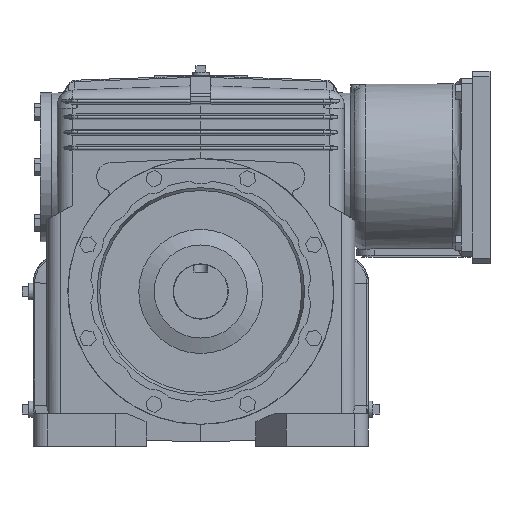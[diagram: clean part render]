
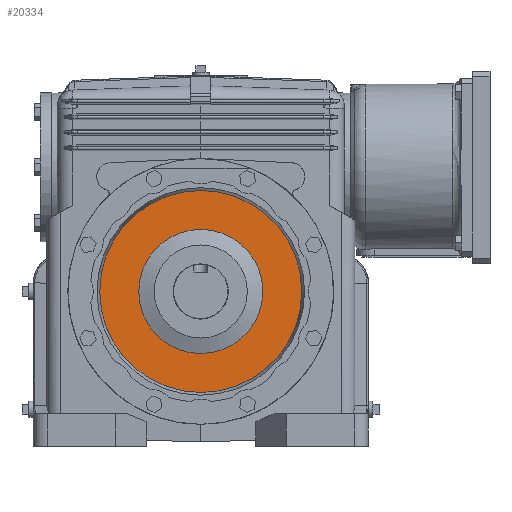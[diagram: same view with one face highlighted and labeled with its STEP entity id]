
A CAD part, front view. The second image highlights one B-rep face of the part: STEP entity #20334.
In plain terms, the highlighted planar face has unit normal (0, -1, 0) as drawn and (1, 0, 0) by its records, which use the part's own axes.
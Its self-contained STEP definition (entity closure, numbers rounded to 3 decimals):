
#9340=ORIENTED_EDGE('',*,*,#13008,.F.);
#9341=ORIENTED_EDGE('',*,*,#13007,.T.);
#13007=EDGE_CURVE('',#15077,#15077,#15818,.T.);
#13008=EDGE_CURVE('',#15078,#15078,#15819,.T.);
#15077=VERTEX_POINT('',#55734);
#15078=VERTEX_POINT('',#55737);
#15818=CIRCLE('',#23524,101.6);
#15819=CIRCLE('',#23526,165.351);
#16926=EDGE_LOOP('',(#9340));
#16927=EDGE_LOOP('',(#9341));
#18330=FACE_BOUND('',#16926,.T.);
#18331=FACE_BOUND('',#16927,.T.);
#19167=PLANE('',#23525);
#20334=ADVANCED_FACE('',(#18330,#18331),#19167,.F.);
#23524=AXIS2_PLACEMENT_3D('',#55733,#27284,#27285);
#23525=AXIS2_PLACEMENT_3D('',#55735,#27286,#27287);
#23526=AXIS2_PLACEMENT_3D('',#55736,#27288,#27289);
#27284=DIRECTION('',(-1.,0.,0.));
#27285=DIRECTION('',(0.,0.,1.));
#27286=DIRECTION('',(-1.,0.,0.));
#27287=DIRECTION('',(0.,0.,1.));
#27288=DIRECTION('',(-1.,0.,0.));
#27289=DIRECTION('',(0.,0.,1.));
#55733=CARTESIAN_POINT('',(14.961,0.,0.));
#55734=CARTESIAN_POINT('',(14.961,0.,101.6));
#55735=CARTESIAN_POINT('',(14.961,0.,101.6));
#55736=CARTESIAN_POINT('',(14.961,0.,0.));
#55737=CARTESIAN_POINT('',(14.961,0.,165.351));
